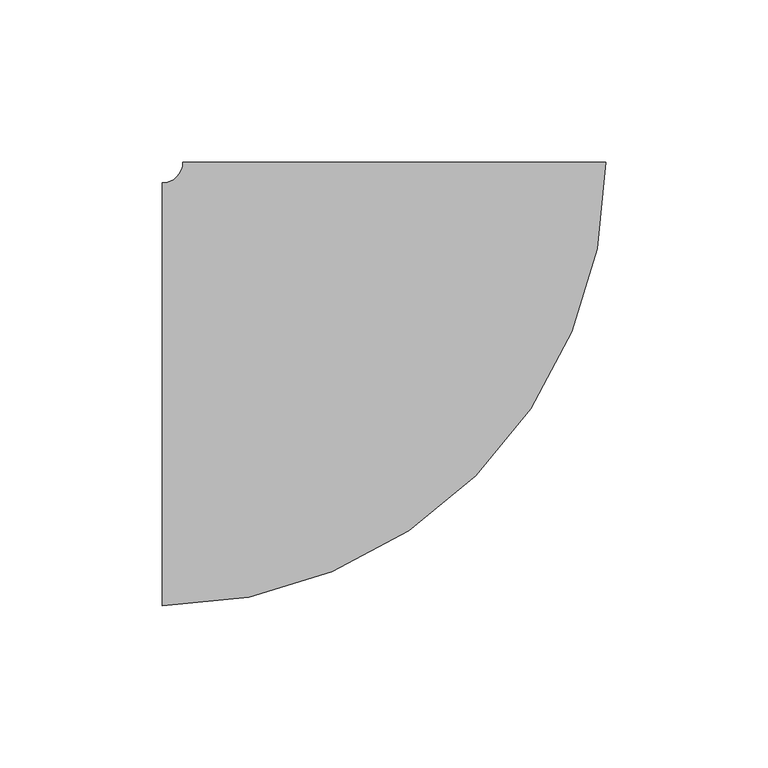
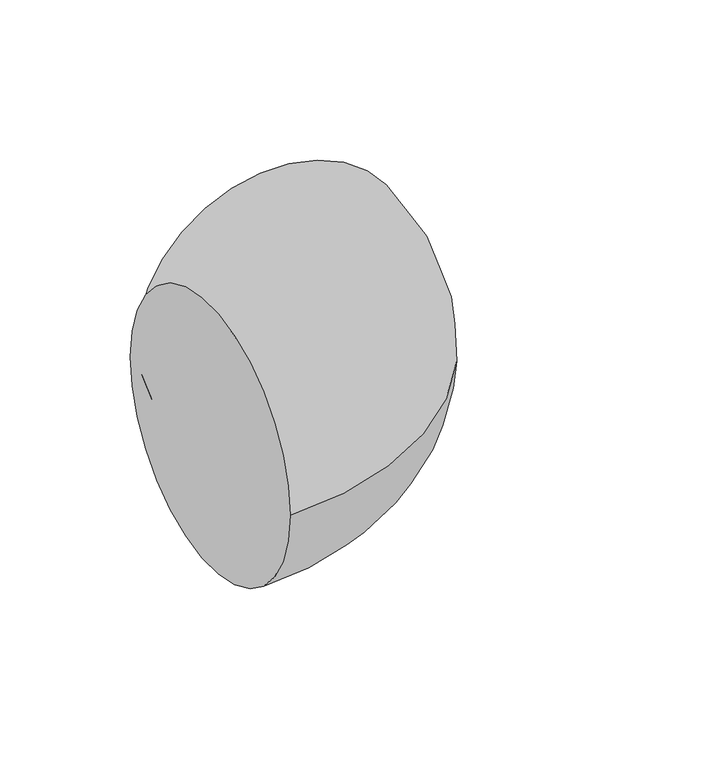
"""IFC4 building model written with IfcOpenShell, lengths in millimetres: pipe fitting geometry, M_Codo - Genérico : Estándar."""

import ifcopenshell
import ifcopenshell.guid

model = None  # the IFC model being written
_history = None  # IfcOwnerHistory: only IFC2X3 demands one
_inside = {}  # id of a spatial element -> (the spatial element, [elements in it])
_under = {}  # id of a project, library or spatial element -> (it, [spatial elements below it])
_declared = {}  # id of a project -> (the project, [libraries it declares])
_typed = {}  # id of a type object -> (the type object, [elements of that type])
_made_of = {}  # id of a material, layer set ... -> (it, [elements and type objects made of it])


def new_model(schema):
    """Start an empty IFC model of exactly this schema.

    Asked for "IFC4X3", IfcOpenShell would pick the latest addendum, in which some entities
    have other attributes; the version numbers below select the first issue.
    IFC2X3 requires an IfcOwnerHistory on every rooted entity: one is made here for all.
    """
    global model, _history
    if schema == "IFC4X3":
        model = ifcopenshell.file(schema_version=(4, 3, 0, 0))
    else:
        model = ifcopenshell.file(schema=schema)
    _inside.clear()
    _under.clear()
    _declared.clear()
    _typed.clear()
    _made_of.clear()
    _history = None
    if model.schema == "IFC2X3":
        org = make("IfcOrganization", Name="unknown")
        user = make(
            "IfcPersonAndOrganization",
            ThePerson=make("IfcPerson", FamilyName="unknown"),
            TheOrganization=org,
        )
        app = make(
            "IfcApplication",
            ApplicationDeveloper=org,
            Version="unknown",
            ApplicationFullName="unknown",
            ApplicationIdentifier="unknown",
        )
        _history = make(
            "IfcOwnerHistory",
            OwningUser=user,
            OwningApplication=app,
            ChangeAction="ADDED",
            CreationDate=0,
        )
    return model


def make(cls, **values):
    """One entity of the class cls with the attributes given. An attribute that is None is left unset."""
    return model.create_entity(
        cls, **{name: value for name, value in values.items() if value is not None}
    )


def rooted(cls, **values):
    """An entity with a GlobalId (a new one), such as an element, a storey or a relation."""
    return make(cls, GlobalId=ifcopenshell.guid.new(), OwnerHistory=_history, **values)


def si_unit(unit_type, name, prefix=None):
    """IfcSIUnit, for example si_unit("LENGTHUNIT", "METRE", prefix="MILLI")."""
    return make("IfcSIUnit", UnitType=unit_type, Prefix=prefix, Name=name)


def assignment(units):
    """IfcUnitAssignment: the units of a project."""
    return None if units is None else make("IfcUnitAssignment", Units=units)


def point(xyz):
    """IfcCartesianPoint."""
    return None if xyz is None else make("IfcCartesianPoint", Coordinates=xyz)


def direction(xyz):
    """IfcDirection."""
    return None if xyz is None else make("IfcDirection", DirectionRatios=xyz)


def frame(location, z_axis=None, x_axis=None):
    """IfcAxis2Placement3D, a coordinate frame: its origin and axes. An axis left out is left unset."""
    return make(
        "IfcAxis2Placement3D",
        Location=point(location),
        Axis=direction(z_axis),
        RefDirection=direction(x_axis),
    )


def origin():
    """The frame at (0, 0, 0) with its axes left unset."""
    return frame((0.0, 0.0, 0.0))


def place(relative_to, where):
    """IfcLocalPlacement: puts the frame where relative to a parent placement (None: the world)."""
    return make(
        "IfcLocalPlacement", PlacementRelTo=relative_to, RelativePlacement=where
    )


def context(
    kind, dimensions, precision=None, world=None, true_north=None, identifier=None
):
    """IfcGeometricRepresentationContext, for example the 3D "Model" context."""
    return make(
        "IfcGeometricRepresentationContext",
        ContextIdentifier=identifier,
        ContextType=kind,
        CoordinateSpaceDimension=dimensions,
        Precision=precision,
        WorldCoordinateSystem=world,
        TrueNorth=true_north,
    )


def project(units=None, contexts=None):
    """IfcProject with its units and contexts."""
    return rooted(
        "IfcProject",
        Name="project",
        RepresentationContexts=contexts,
        UnitsInContext=assignment(units),
    )


def spatial(cls, under=None, at=None, **own):
    """A site, building, storey or space (cls), placed at a placement, below another one or the project."""
    s = rooted(cls, ObjectPlacement=at, **own)
    if under is not None:
        _under.setdefault(under.id(), (under, []))[1].append(s)
    return s


def circle_curve(where, radius):
    """IfcCircle in the frame where."""
    return make("IfcCircle", Position=where, Radius=radius)


def ellipse_curve(where, semi_axis1, semi_axis2):
    """IfcEllipse in the frame where."""
    return make(
        "IfcEllipse", Position=where, SemiAxis1=semi_axis1, SemiAxis2=semi_axis2
    )


def trimmed(basis, trim1, trim2, sense, master):
    """IfcTrimmedCurve: the piece of a basis curve between two trims."""
    return make(
        "IfcTrimmedCurve",
        BasisCurve=basis,
        Trim1=trim1,
        Trim2=trim2,
        SenseAgreement=sense,
        MasterRepresentation=master,
    )


def shape(context_of_items, identifier, shape_type, items):
    """IfcShapeRepresentation: the items that make up one representation, for example the "Body"."""
    return make(
        "IfcShapeRepresentation",
        ContextOfItems=context_of_items,
        RepresentationIdentifier=identifier,
        RepresentationType=shape_type,
        Items=items,
    )


def source(mapping_origin, context_of_items, identifier, shape_type, items):
    """IfcRepresentationMap: a shape defined once, which mapped items show again and again."""
    return make(
        "IfcRepresentationMap",
        MappingOrigin=mapping_origin,
        MappedRepresentation=shape(context_of_items, identifier, shape_type, items),
    )


def transform(
    local_origin,
    x_axis=None,
    y_axis=None,
    z_axis=None,
    scale=None,
    scale2=None,
    scale3=None,
    uniform=True,
):
    """IfcCartesianTransformationOperator3D, or its non-uniform kind. x_axis, y_axis, z_axis: its Axis1, 2, 3."""
    if uniform:
        return make(
            "IfcCartesianTransformationOperator3D",
            Axis1=direction(x_axis),
            Axis2=direction(y_axis),
            LocalOrigin=point(local_origin),
            Scale=scale,
            Axis3=direction(z_axis),
        )
    return make(
        "IfcCartesianTransformationOperator3DnonUniform",
        Axis1=direction(x_axis),
        Axis2=direction(y_axis),
        LocalOrigin=point(local_origin),
        Scale=scale,
        Axis3=direction(z_axis),
        Scale2=scale2,
        Scale3=scale3,
    )


def mapped(mapping_source, mapping_target):
    """IfcMappedItem: shows the shape of a source again, moved by a transform."""
    return make(
        "IfcMappedItem", MappingSource=mapping_source, MappingTarget=mapping_target
    )


def made_of(thing, what):
    """Note that an element or type object is made of a material, layer set ...; save() writes the relation."""
    if what is not None:
        _made_of.setdefault(what.id(), (what, []))[1].append(thing)
    return thing


def element(
    cls,
    number,
    at=None,
    inside=None,
    cuts=None,
    type_object=None,
    material=None,
    context=None,
    identifier="Body",
    shape_type=None,
    held_by="IfcProductDefinitionShape",
    body=None,
    shapes=None,
    **own,
):
    """One element of the class cls, such as IfcWall. Its Tag is "e" and its number.

    at: its placement. inside: the storey or other place that contains it. cuts: it is an
    opening in that element (IfcRelVoidsElement). A single representation is given by context,
    identifier, shape_type and body (its items); several are given by shapes. held_by: the class
    of the entity that holds the representations. save() writes the other relations.
    """
    e = rooted(cls, Tag="e%d" % number, ObjectPlacement=at, **own)
    if body is not None:
        shapes = [shape(context, identifier, shape_type, body)]
    if shapes is not None:
        e.Representation = make(held_by, Representations=shapes)
    if inside is not None:
        _inside.setdefault(inside.id(), (inside, []))[1].append(e)
    if cuts is not None:
        rooted(
            "IfcRelVoidsElement", RelatingBuildingElement=cuts, RelatedOpeningElement=e
        )
    if type_object is not None:
        _typed.setdefault(type_object.id(), (type_object, []))[1].append(e)
    return made_of(e, material)


def aggregate(whole, parts):
    """IfcRelAggregates: a whole, such as a stair, and the parts it consists of."""
    return rooted("IfcRelAggregates", RelatingObject=whole, RelatedObjects=parts)


def save(model, path):
    """Write the relations noted so far, then the file.

    IfcRelAggregates (storeys below a building ...), IfcRelContainedInSpatialStructure (elements
    in a storey), IfcRelDefinesByType, IfcRelAssociatesMaterial and IfcRelDeclares: one each for
    every whole, place, type object, material and project.
    """
    for whole, parts in _under.values():
        aggregate(whole, parts)
    for where, things in _inside.values():
        rooted(
            "IfcRelContainedInSpatialStructure",
            RelatedElements=things,
            RelatingStructure=where,
        )
    for kind, things in _typed.values():
        rooted("IfcRelDefinesByType", RelatedObjects=things, RelatingType=kind)
    for what, things in _made_of.values():
        rooted("IfcRelAssociatesMaterial", RelatedObjects=things, RelatingMaterial=what)
    for by, libraries in _declared.values():
        rooted("IfcRelDeclares", RelatingContext=by, RelatedDefinitions=libraries)
    model.write(path)


def plane_surface(at):
    """IfcPlane: the flat surface through the origin of the frame at, square to its z axis."""
    return make("IfcPlane", Position=at)


def revolved_surface(curve, axis_point, axis_direction):
    """IfcSurfaceOfRevolution: the curve turned about the line through axis_point along axis_direction."""
    return make(
        "IfcSurfaceOfRevolution",
        SweptCurve=make("IfcArbitraryOpenProfileDef", ProfileType="CURVE", Curve=curve),
        AxisPosition=make("IfcAxis1Placement", Location=point(axis_point), Axis=direction(axis_direction)),
    )


def advanced_brep(points, edges, surfaces, faces):
    """IfcAdvancedBrep: a solid bounded by faces that lie on surfaces and meet in shared edges.

    An edge is (start, end): straight between two places in points (the first is 0);
    or (start, end, curve); or (start, end, curve, False) where it runs against its curve.
    A face is (place in surfaces, loops), or (place, loops, False) where it looks against
    its surface's normal. A loop lists edges by number (the first is 1), with a minus sign
    where the edge is run from its end to its start. The first loop is the outer one.
    """
    corners = [point(p) for p in points]
    vertices = [make("IfcVertexPoint", VertexGeometry=c) for c in corners]
    made = []
    for start, end, *more in edges:
        made.append(
            make(
                "IfcEdgeCurve",
                EdgeStart=vertices[start],
                EdgeEnd=vertices[end],
                EdgeGeometry=more[0] if more else make("IfcPolyline", Points=[corners[start], corners[end]]),
                SameSense=more[1] if len(more) > 1 else True,
            )
        )
    hull = []
    for where, loops, *sense in faces:
        bounds = []
        for j, loop in enumerate(loops):
            ring = [make("IfcOrientedEdge", EdgeElement=made[abs(k) - 1], Orientation=k > 0) for k in loop]
            bounds.append(
                make(
                    "IfcFaceOuterBound" if j == 0 else "IfcFaceBound",
                    Bound=make("IfcEdgeLoop", EdgeList=ring),
                    Orientation=True,
                )
            )
        hull.append(make("IfcAdvancedFace", Bounds=bounds, FaceSurface=surfaces[where], SameSense=sense[0] if sense else True))
    return make("IfcAdvancedBrep", Outer=make("IfcClosedShell", CfsFaces=hull))


def pipe_fitting_e0fa64fe(model_context):
    return source(origin(), model_context, "Body", "AdvancedBrep", [
        advanced_brep(
        [(-71.4375, -65.0875, 0.0), (-71.4375, 65.0875, 0.0), (65.0875, 71.4375, 0.0), (-65.0875, 71.4375, 0.0)],
        [
            (0, 1, circle_curve(frame((-71.4375, 0.0, 0.0), z_axis=(-1.0, 0.0, 0.0), x_axis=(0.0, 1.0, 0.0)), 65.0875)),
            (1, 0, circle_curve(frame((-71.4375, 0.0, 0.0), z_axis=(-1.0, 0.0, 0.0), x_axis=(0.0, 1.0, 0.0)), 65.0875)),
            (2, 3, circle_curve(frame((0.0, 71.4375, 0.0), z_axis=(0.0, 1.0, 0.0), x_axis=(-1.0, 0.0, 0.0)), 65.0875)),
            (3, 2, circle_curve(frame((0.0, 71.4375, 0.0), z_axis=(0.0, 1.0, 0.0), x_axis=(-1.0, 0.0, 0.0)), 65.0875)),
            (3, 1, circle_curve(frame((-71.4375, 71.4375, 0.0), z_axis=(0.0, 0.0, -1.0), x_axis=(0.0, -1.0, 0.0)), 6.35)),
            (0, 2, circle_curve(frame((-71.4375, 71.4375, 0.0), z_axis=(0.0, 0.0, 1.0), x_axis=(0.0, -1.0, 0.0)), 136.525)),
        ],
        [
            plane_surface(frame((-71.4375, 0.0, 0.0), z_axis=(-1.0, 0.0, 0.0), x_axis=(0.0, 0.0, 1.0))),
            plane_surface(frame((0.0, 71.4375, 0.0), z_axis=(0.0, 1.0, 0.0), x_axis=(0.0, 0.0, 1.0))),
            revolved_surface(trimmed(ellipse_curve(frame((-71.4375, 0.0, 0.0), z_axis=(-1.0, 0.0, 0.0), x_axis=(0.0, 1.0, 0.0)), 65.0875, 65.0875), [point((-71.4375, -65.0875, 0.0))], [point((-71.4375, 65.0875, 0.0))], True, "CARTESIAN"), (-71.4375, 71.4375, 0.0), (0.0, 0.0, 1.0)),
            revolved_surface(trimmed(ellipse_curve(frame((-71.4375, 0.0, 0.0), z_axis=(-1.0, 0.0, 0.0), x_axis=(0.0, 1.0, 0.0)), 65.0875, 65.0875), [point((-71.4375, 65.0875, 0.0))], [point((-71.4375, -65.0875, 0.0))], True, "CARTESIAN"), (-71.4375, 71.4375, 0.0), (0.0, 0.0, 1.0)),
        ],
        [
            (0, [[1, 2]]),
            (1, [[3, 4]]),
            (2, [[5, -1, 6, -4]]),
            (3, [[-6, -2, -5, -3]]),
        ],
    ),
    ])


if __name__ == "__main__":
    model = new_model("IFC4")
    model_context = context("Model", 3, world=origin())
    ifc_project = project(units=[si_unit("LENGTHUNIT", "METRE", prefix="MILLI")], contexts=[model_context])
    site = spatial("IfcSite", under=ifc_project)
    building = spatial("IfcBuilding", under=site)
    placement = place(None, origin())
    pipe_fitting_shape = pipe_fitting_e0fa64fe(model_context)
    element("IfcPipeFitting", 1, ObjectType="M_Codo - Genérico : Estándar", at=placement, inside=building, context=model_context, shape_type="MappedRepresentation", body=[
        mapped(pipe_fitting_shape, transform((0.0, 0.0, 0.0), x_axis=(1.0, 0.0, 0.0), y_axis=(0.0, 1.0, 0.0), z_axis=(0.0, 0.0, 1.0))),
    ])
    save(model, "model.ifc")
